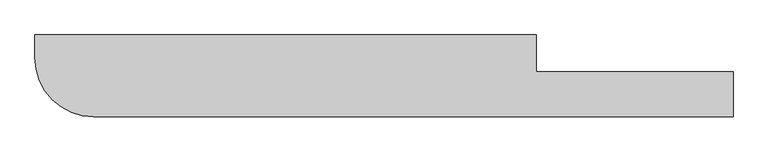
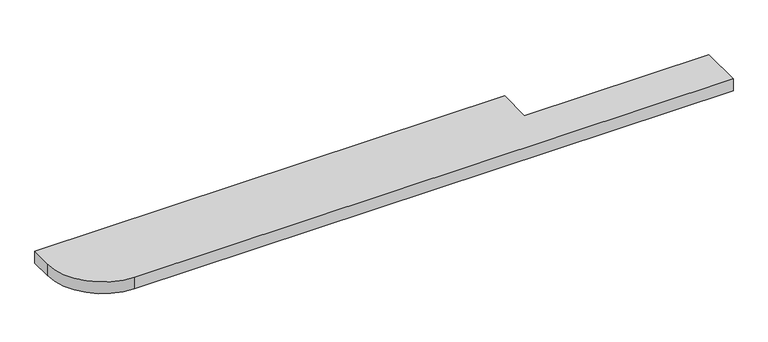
"""IFC4 building model written with IfcOpenShell, lengths in millimetres: furniture geometry, キッチンカウンター : キッチンカウンター."""

from ifc_helpers import new_model, si_unit, point, frame, frame_2d, origin, place, context, project, spatial, polyline, circle_curve, trimmed, segment, composite_curve, outline, extrude, source, transform, mapped, element, save


def furniture_dadabe7c(model_context):
    return source(origin(), model_context, "Body", "SweptSolid", [
        extrude(outline(composite_curve([segment(polyline([(-2129.5, 112.5), (-600.0, 112.5), (-600.0, 0.0), (0.0, 0.0), (0.0, -137.5), (-1949.5, -137.5)]), True, "CONTINUOUS"), segment(trimmed(circle_curve(frame_2d((-1949.5, 42.5)), 180.0), [point((-1949.5, -137.5))], [point((-2129.5, 42.5))], False, "CARTESIAN"), True, "CONTINUOUS"), segment(polyline([(-2129.5, 42.5), (-2129.5, 112.5)]), True, "CONTINUOUS")], self_intersect=False)), frame((0.0, 0.0, 1060.0), z_axis=(0.0, 0.0, 1.0), x_axis=(1.0, 0.0, 0.0)), (0.0, 0.0, 1.0), 40.0),
    ])


if __name__ == "__main__":
    model = new_model("IFC4")
    model_context = context("Model", 3, world=origin())
    ifc_project = project(units=[si_unit("LENGTHUNIT", "METRE", prefix="MILLI")], contexts=[model_context])
    site = spatial("IfcSite", under=ifc_project)
    building = spatial("IfcBuilding", under=site)
    placement = place(None, origin())
    furniture_shape = furniture_dadabe7c(model_context)
    element("IfcFurniture", 1, ObjectType="キッチンカウンター : キッチンカウンター", at=placement, inside=building, context=model_context, shape_type="MappedRepresentation", body=[
        mapped(furniture_shape, transform((0.0, 0.0, 0.0), x_axis=(1.0, 0.0, 0.0), y_axis=(0.0, 1.0, 0.0), z_axis=(0.0, 0.0, 1.0))),
    ])
    save(model, "model.ifc")
